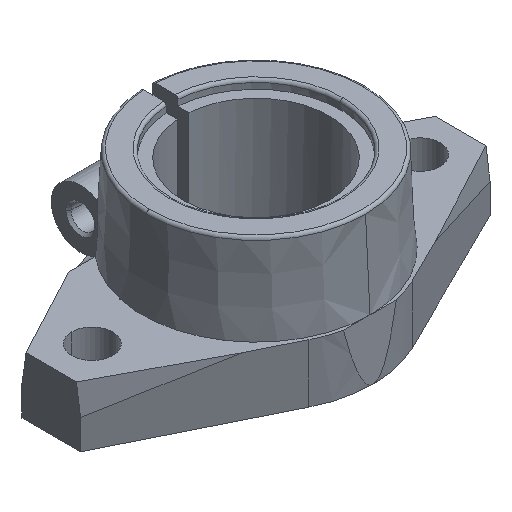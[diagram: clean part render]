
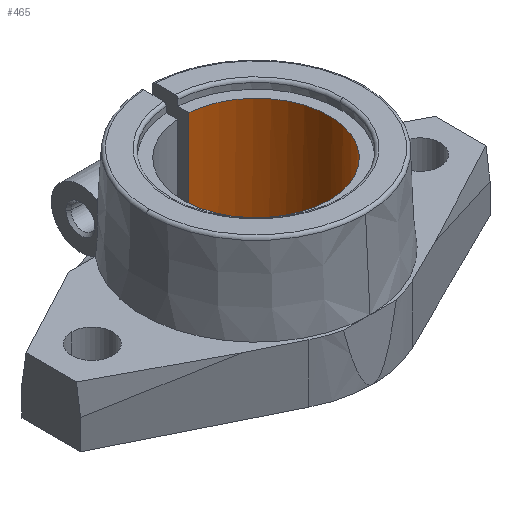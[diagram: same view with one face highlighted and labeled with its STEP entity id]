
A CAD part, isometric view. The second image highlights one B-rep face of the part: STEP entity #465.
In plain terms, the highlighted cylindrical face has radius 12.5 mm (diameter 25 mm), a partial arc.
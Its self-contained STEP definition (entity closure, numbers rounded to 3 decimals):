
#23 = VECTOR ( 'NONE', #164, 1000. ) ;
#134 = VERTEX_POINT ( 'NONE', #1387 ) ;
#143 = VERTEX_POINT ( 'NONE', #1565 ) ;
#149 = EDGE_CURVE ( 'NONE', #134, #2414, #1800, .T. ) ;
#164 = DIRECTION ( 'NONE',  ( 0., 0., 1. ) ) ;
#191 = CARTESIAN_POINT ( 'NONE',  ( 0., 0., 0.5 ) ) ;
#196 = DIRECTION ( 'NONE',  ( 0., 0., -1. ) ) ;
#232 = EDGE_CURVE ( 'NONE', #134, #143, #263, .T. ) ;
#250 = CARTESIAN_POINT ( 'NONE',  ( 0., 0., 23.5 ) ) ;
#263 = LINE ( 'NONE', #1818, #1910 ) ;
#329 = ORIENTED_EDGE ( 'NONE', *, *, #149, .T. ) ;
#331 = LINE ( 'NONE', #1869, #23 ) ;
#427 = CIRCLE ( 'NONE', #1916, 12.5 ) ;
#429 = VERTEX_POINT ( 'NONE', #1169 ) ;
#465 = ADVANCED_FACE ( 'NONE', ( #1588 ), #2112, .F. ) ;
#538 = DIRECTION ( 'NONE',  ( 0., 0., -1. ) ) ;
#571 = DIRECTION ( 'NONE',  ( 1., 0., 0. ) ) ;
#600 = EDGE_LOOP ( 'NONE', ( #802, #329, #1703, #727, #1780 ) ) ;
#727 = ORIENTED_EDGE ( 'NONE', *, *, #2160, .T. ) ;
#729 = CARTESIAN_POINT ( 'NONE',  ( 1., 12.46, 23.5 ) ) ;
#793 = DIRECTION ( 'NONE',  ( 0., 0., -1. ) ) ;
#802 = ORIENTED_EDGE ( 'NONE', *, *, #232, .F. ) ;
#835 = AXIS2_PLACEMENT_3D ( 'NONE', #2171, #196, #1736 ) ;
#955 = EDGE_CURVE ( 'NONE', #429, #143, #1158, .T. ) ;
#1050 = DIRECTION ( 'NONE',  ( 0., 0., -1. ) ) ;
#1110 = AXIS2_PLACEMENT_3D ( 'NONE', #250, #1768, #2156 ) ;
#1158 = CIRCLE ( 'NONE', #1480, 12.5 ) ;
#1169 = CARTESIAN_POINT ( 'NONE',  ( 12.5, 0., 0.5 ) ) ;
#1325 = CARTESIAN_POINT ( 'NONE',  ( 0., 0., 0.5 ) ) ;
#1387 = CARTESIAN_POINT ( 'NONE',  ( 0., -12.5, 23.5 ) ) ;
#1476 = CARTESIAN_POINT ( 'NONE',  ( 1., 12.46, 0.5 ) ) ;
#1480 = AXIS2_PLACEMENT_3D ( 'NONE', #1325, #793, #571 ) ;
#1565 = CARTESIAN_POINT ( 'NONE',  ( 0., -12.5, 0.5 ) ) ;
#1588 = FACE_OUTER_BOUND ( 'NONE', #600, .T. ) ;
#1703 = ORIENTED_EDGE ( 'NONE', *, *, #1755, .F. ) ;
#1704 = DIRECTION ( 'NONE',  ( 1., 0., 0. ) ) ;
#1736 = DIRECTION ( 'NONE',  ( 0., -1., 0. ) ) ;
#1755 = EDGE_CURVE ( 'NONE', #2333, #2414, #331, .T. ) ;
#1768 = DIRECTION ( 'NONE',  ( 0., 0., 1. ) ) ;
#1780 = ORIENTED_EDGE ( 'NONE', *, *, #955, .T. ) ;
#1800 = CIRCLE ( 'NONE', #1110, 12.5 ) ;
#1818 = CARTESIAN_POINT ( 'NONE',  ( 0., -12.5, 11.75 ) ) ;
#1869 = CARTESIAN_POINT ( 'NONE',  ( 1., 12.46, 11.75 ) ) ;
#1910 = VECTOR ( 'NONE', #1050, 1000. ) ;
#1916 = AXIS2_PLACEMENT_3D ( 'NONE', #191, #538, #1704 ) ;
#2112 = CYLINDRICAL_SURFACE ( 'NONE', #835, 12.5 ) ;
#2156 = DIRECTION ( 'NONE',  ( 0., 1., 0. ) ) ;
#2160 = EDGE_CURVE ( 'NONE', #2333, #429, #427, .T. ) ;
#2171 = CARTESIAN_POINT ( 'NONE',  ( 0., 0., 11.75 ) ) ;
#2333 = VERTEX_POINT ( 'NONE', #1476 ) ;
#2414 = VERTEX_POINT ( 'NONE', #729 ) ;
